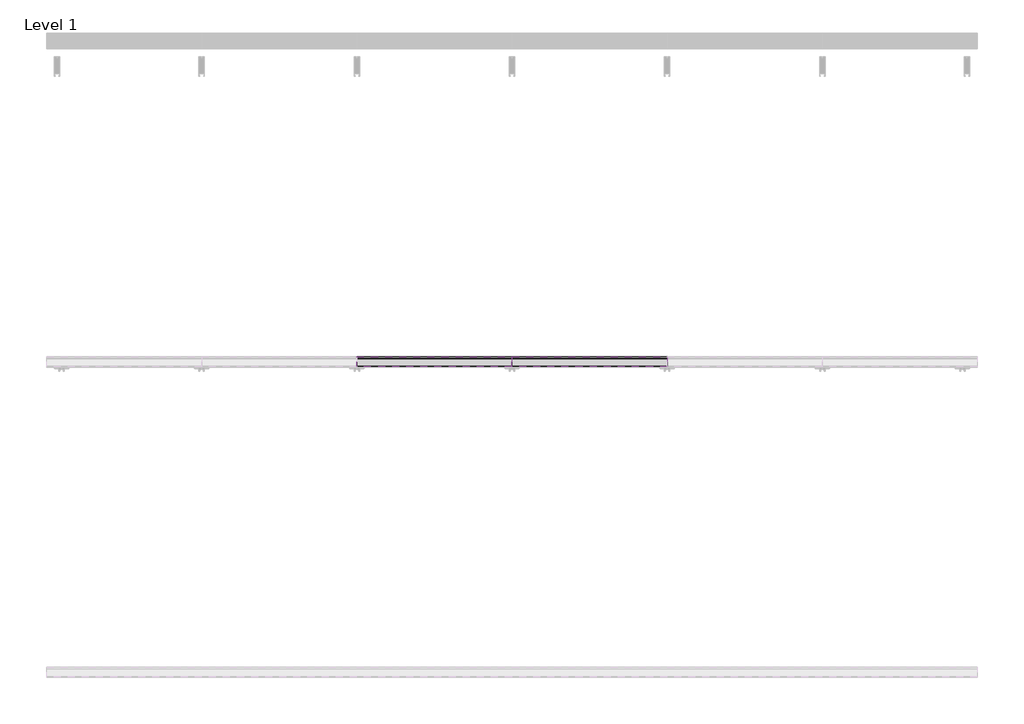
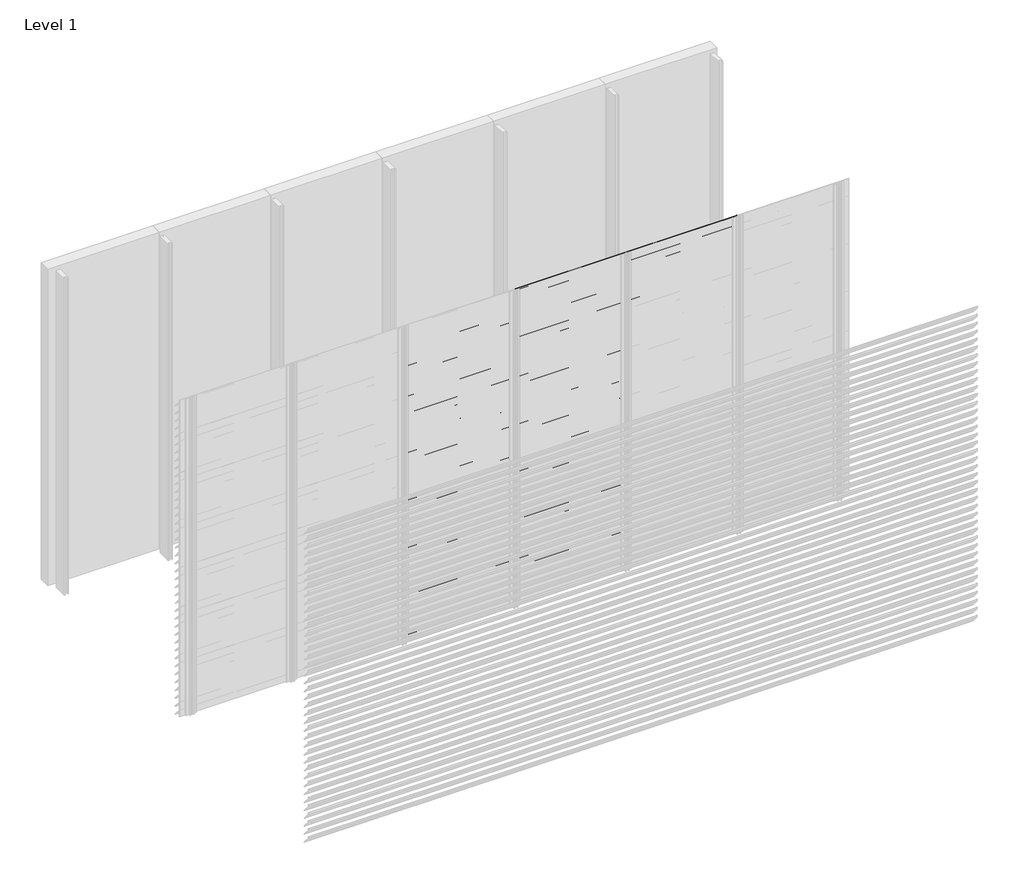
# One storey, part 5 of 35: 86 proxies.
"""IFC4 building model written with IfcOpenShell, lengths in millimetres."""

from ifc_helpers import new_model, si_unit, frame, origin, place, context, project, spatial, polyline, outline, extrude, element, save

model = new_model("IFC4")

# Units and contexts
model_context = context("Model", 3, world=origin())
ifc_project = project(units=[si_unit("LENGTHUNIT", "METRE", prefix="MILLI")], contexts=[model_context])

# Site, building, storey
site = spatial("IfcSite", under=ifc_project)
building = spatial("IfcBuilding", under=site)
storey = spatial("IfcBuildingStorey", under=building, Name="Level 1", Elevation=0.0)

# Proxies
placement = place(None, origin())
element("IfcBuildingElementProxy", 1, Name="Wall Sweeps", at=placement, inside=storey, context=model_context, shape_type="SweptSolid", body=[
    extrude(outline(polyline([(-53996.5, 2925.0), (-53996.5, 2910.5463701), (-53934.5, 2838.9330051), (-53934.5, 2835.4), (-53936.0, 2835.4), (-53936.0, 2838.3738975), (-53998.0, 2909.9872626), (-53998.0, 2925.0), (-53996.5, 2925.0)])), frame((2000.0, 0.0, 0.0), z_axis=(1.0, 0.0, 0.0), x_axis=(0.0, 1.0, 0.0)), (0.0, 0.0, 1.0), 1000.0),
])
element("IfcBuildingElementProxy", 2, Name="Wall Sweeps", at=placement, inside=storey, context=model_context, shape_type="SweptSolid", body=[
    extrude(outline(polyline([(-53996.5, 2850.0), (-53996.5, 2835.5463701), (-53934.5, 2763.9330051), (-53934.5, 2760.4), (-53936.0, 2760.4), (-53936.0, 2763.3738975), (-53998.0, 2834.9872626), (-53998.0, 2850.0), (-53996.5, 2850.0)])), frame((2000.0, 0.0, 0.0), z_axis=(1.0, 0.0, 0.0), x_axis=(0.0, 1.0, 0.0)), (0.0, 0.0, 1.0), 1000.0),
])
element("IfcBuildingElementProxy", 3, Name="Wall Sweeps", at=placement, inside=storey, context=model_context, shape_type="SweptSolid", body=[
    extrude(outline(polyline([(-53996.5, 2775.0), (-53996.5, 2760.5463701), (-53934.5, 2688.9330051), (-53934.5, 2685.4), (-53936.0, 2685.4), (-53936.0, 2688.3738975), (-53998.0, 2759.9872626), (-53998.0, 2775.0), (-53996.5, 2775.0)])), frame((2000.0, 0.0, 0.0), z_axis=(1.0, 0.0, 0.0), x_axis=(0.0, 1.0, 0.0)), (0.0, 0.0, 1.0), 1000.0),
])
element("IfcBuildingElementProxy", 4, Name="Wall Sweeps", at=placement, inside=storey, context=model_context, shape_type="SweptSolid", body=[
    extrude(outline(polyline([(-53996.5, 2700.0), (-53996.5, 2685.5463701), (-53934.5, 2613.9330051), (-53934.5, 2610.4), (-53936.0, 2610.4), (-53936.0, 2613.3738975), (-53998.0, 2684.9872626), (-53998.0, 2700.0), (-53996.5, 2700.0)])), frame((2000.0, 0.0, 0.0), z_axis=(1.0, 0.0, 0.0), x_axis=(0.0, 1.0, 0.0)), (0.0, 0.0, 1.0), 1000.0),
])
element("IfcBuildingElementProxy", 5, Name="Wall Sweeps", at=placement, inside=storey, context=model_context, shape_type="SweptSolid", body=[
    extrude(outline(polyline([(-53996.5, 2625.0), (-53996.5, 2610.5463701), (-53934.5, 2538.9330051), (-53934.5, 2535.4), (-53936.0, 2535.4), (-53936.0, 2538.3738975), (-53998.0, 2609.9872626), (-53998.0, 2625.0), (-53996.5, 2625.0)])), frame((2000.0, 0.0, 0.0), z_axis=(1.0, 0.0, 0.0), x_axis=(0.0, 1.0, 0.0)), (0.0, 0.0, 1.0), 1000.0),
])
element("IfcBuildingElementProxy", 6, Name="Wall Sweeps", at=placement, inside=storey, context=model_context, shape_type="SweptSolid", body=[
    extrude(outline(polyline([(-53996.5, 2550.0), (-53996.5, 2535.5463701), (-53934.5, 2463.9330051), (-53934.5, 2460.4), (-53936.0, 2460.4), (-53936.0, 2463.3738975), (-53998.0, 2534.9872626), (-53998.0, 2550.0), (-53996.5, 2550.0)])), frame((2000.0, 0.0, 0.0), z_axis=(1.0, 0.0, 0.0), x_axis=(0.0, 1.0, 0.0)), (0.0, 0.0, 1.0), 1000.0),
])
element("IfcBuildingElementProxy", 7, Name="Wall Sweeps", at=placement, inside=storey, context=model_context, shape_type="SweptSolid", body=[
    extrude(outline(polyline([(-53996.5, 2475.0), (-53996.5, 2460.5463701), (-53934.5, 2388.9330051), (-53934.5, 2385.4), (-53936.0, 2385.4), (-53936.0, 2388.3738975), (-53998.0, 2459.9872626), (-53998.0, 2475.0), (-53996.5, 2475.0)])), frame((2000.0, 0.0, 0.0), z_axis=(1.0, 0.0, 0.0), x_axis=(0.0, 1.0, 0.0)), (0.0, 0.0, 1.0), 1000.0),
])
element("IfcBuildingElementProxy", 8, Name="Wall Sweeps", at=placement, inside=storey, context=model_context, shape_type="SweptSolid", body=[
    extrude(outline(polyline([(-53996.5, 2400.0), (-53996.5, 2385.5463701), (-53934.5, 2313.9330051), (-53934.5, 2310.4), (-53936.0, 2310.4), (-53936.0, 2313.3738975), (-53998.0, 2384.9872626), (-53998.0, 2400.0), (-53996.5, 2400.0)])), frame((2000.0, 0.0, 0.0), z_axis=(1.0, 0.0, 0.0), x_axis=(0.0, 1.0, 0.0)), (0.0, 0.0, 1.0), 1000.0),
])
element("IfcBuildingElementProxy", 9, Name="Wall Sweeps", at=placement, inside=storey, context=model_context, shape_type="SweptSolid", body=[
    extrude(outline(polyline([(-53996.5, 2325.0), (-53996.5, 2310.5463701), (-53934.5, 2238.9330051), (-53934.5, 2235.4), (-53936.0, 2235.4), (-53936.0, 2238.3738975), (-53998.0, 2309.9872626), (-53998.0, 2325.0), (-53996.5, 2325.0)])), frame((2000.0, 0.0, 0.0), z_axis=(1.0, 0.0, 0.0), x_axis=(0.0, 1.0, 0.0)), (0.0, 0.0, 1.0), 1000.0),
])
element("IfcBuildingElementProxy", 10, Name="Wall Sweeps", at=placement, inside=storey, context=model_context, shape_type="SweptSolid", body=[
    extrude(outline(polyline([(-53996.5, 2250.0), (-53996.5, 2235.5463701), (-53934.5, 2163.9330051), (-53934.5, 2160.4), (-53936.0, 2160.4), (-53936.0, 2163.3738975), (-53998.0, 2234.9872626), (-53998.0, 2250.0), (-53996.5, 2250.0)])), frame((2000.0, 0.0, 0.0), z_axis=(1.0, 0.0, 0.0), x_axis=(0.0, 1.0, 0.0)), (0.0, 0.0, 1.0), 1000.0),
])
element("IfcBuildingElementProxy", 11, Name="Wall Sweeps", at=placement, inside=storey, context=model_context, shape_type="SweptSolid", body=[
    extrude(outline(polyline([(-53996.5, 2175.0), (-53996.5, 2160.5463701), (-53934.5, 2088.9330051), (-53934.5, 2085.4), (-53936.0, 2085.4), (-53936.0, 2088.3738975), (-53998.0, 2159.9872626), (-53998.0, 2175.0), (-53996.5, 2175.0)])), frame((2000.0, 0.0, 0.0), z_axis=(1.0, 0.0, 0.0), x_axis=(0.0, 1.0, 0.0)), (0.0, 0.0, 1.0), 1000.0),
])
element("IfcBuildingElementProxy", 12, Name="Wall Sweeps", at=placement, inside=storey, context=model_context, shape_type="SweptSolid", body=[
    extrude(outline(polyline([(-53996.5, 2100.0), (-53996.5, 2085.5463701), (-53934.5, 2013.9330051), (-53934.5, 2010.4), (-53936.0, 2010.4), (-53936.0, 2013.3738975), (-53998.0, 2084.9872626), (-53998.0, 2100.0), (-53996.5, 2100.0)])), frame((2000.0, 0.0, 0.0), z_axis=(1.0, 0.0, 0.0), x_axis=(0.0, 1.0, 0.0)), (0.0, 0.0, 1.0), 1000.0),
])
element("IfcBuildingElementProxy", 13, Name="Wall Sweeps", at=placement, inside=storey, context=model_context, shape_type="SweptSolid", body=[
    extrude(outline(polyline([(-53996.5, 2025.0), (-53996.5, 2010.5463701), (-53934.5, 1938.9330051), (-53934.5, 1935.4), (-53936.0, 1935.4), (-53936.0, 1938.3738975), (-53998.0, 2009.9872626), (-53998.0, 2025.0), (-53996.5, 2025.0)])), frame((2000.0, 0.0, 0.0), z_axis=(1.0, 0.0, 0.0), x_axis=(0.0, 1.0, 0.0)), (0.0, 0.0, 1.0), 1000.0),
])
element("IfcBuildingElementProxy", 14, Name="Wall Sweeps", at=placement, inside=storey, context=model_context, shape_type="SweptSolid", body=[
    extrude(outline(polyline([(-53996.5, 1950.0), (-53996.5, 1935.5463701), (-53934.5, 1863.9330051), (-53934.5, 1860.4), (-53936.0, 1860.4), (-53936.0, 1863.3738975), (-53998.0, 1934.9872626), (-53998.0, 1950.0), (-53996.5, 1950.0)])), frame((2000.0, 0.0, 0.0), z_axis=(1.0, 0.0, 0.0), x_axis=(0.0, 1.0, 0.0)), (0.0, 0.0, 1.0), 1000.0),
])
element("IfcBuildingElementProxy", 15, Name="Wall Sweeps", at=placement, inside=storey, context=model_context, shape_type="SweptSolid", body=[
    extrude(outline(polyline([(-53996.5, 1875.0), (-53996.5, 1860.5463701), (-53934.5, 1788.9330051), (-53934.5, 1785.4), (-53936.0, 1785.4), (-53936.0, 1788.3738975), (-53998.0, 1859.9872626), (-53998.0, 1875.0), (-53996.5, 1875.0)])), frame((2000.0, 0.0, 0.0), z_axis=(1.0, 0.0, 0.0), x_axis=(0.0, 1.0, 0.0)), (0.0, 0.0, 1.0), 1000.0),
])
element("IfcBuildingElementProxy", 16, Name="Wall Sweeps", at=placement, inside=storey, context=model_context, shape_type="SweptSolid", body=[
    extrude(outline(polyline([(-53996.5, 1800.0), (-53996.5, 1785.5463701), (-53934.5, 1713.9330051), (-53934.5, 1710.4), (-53936.0, 1710.4), (-53936.0, 1713.3738975), (-53998.0, 1784.9872626), (-53998.0, 1800.0), (-53996.5, 1800.0)])), frame((2000.0, 0.0, 0.0), z_axis=(1.0, 0.0, 0.0), x_axis=(0.0, 1.0, 0.0)), (0.0, 0.0, 1.0), 1000.0),
])
element("IfcBuildingElementProxy", 17, Name="Wall Sweeps", at=placement, inside=storey, context=model_context, shape_type="SweptSolid", body=[
    extrude(outline(polyline([(-53996.5, 1725.0), (-53996.5, 1710.5463701), (-53934.5, 1638.9330051), (-53934.5, 1635.4), (-53936.0, 1635.4), (-53936.0, 1638.3738975), (-53998.0, 1709.9872626), (-53998.0, 1725.0), (-53996.5, 1725.0)])), frame((2000.0, 0.0, 0.0), z_axis=(1.0, 0.0, 0.0), x_axis=(0.0, 1.0, 0.0)), (0.0, 0.0, 1.0), 1000.0),
])
element("IfcBuildingElementProxy", 18, Name="Wall Sweeps", at=placement, inside=storey, context=model_context, shape_type="SweptSolid", body=[
    extrude(outline(polyline([(-53996.5, 1650.0), (-53996.5, 1635.5463701), (-53934.5, 1563.9330051), (-53934.5, 1560.4), (-53936.0, 1560.4), (-53936.0, 1563.3738975), (-53998.0, 1634.9872626), (-53998.0, 1650.0), (-53996.5, 1650.0)])), frame((2000.0, 0.0, 0.0), z_axis=(1.0, 0.0, 0.0), x_axis=(0.0, 1.0, 0.0)), (0.0, 0.0, 1.0), 1000.0),
])
element("IfcBuildingElementProxy", 19, Name="Wall Sweeps", at=placement, inside=storey, context=model_context, shape_type="SweptSolid", body=[
    extrude(outline(polyline([(-53996.5, 1575.0), (-53996.5, 1560.5463701), (-53934.5, 1488.9330051), (-53934.5, 1485.4), (-53936.0, 1485.4), (-53936.0, 1488.3738975), (-53998.0, 1559.9872626), (-53998.0, 1575.0), (-53996.5, 1575.0)])), frame((2000.0, 0.0, 0.0), z_axis=(1.0, 0.0, 0.0), x_axis=(0.0, 1.0, 0.0)), (0.0, 0.0, 1.0), 1000.0),
])
element("IfcBuildingElementProxy", 20, Name="Wall Sweeps", at=placement, inside=storey, context=model_context, shape_type="SweptSolid", body=[
    extrude(outline(polyline([(-53996.5, 1500.0), (-53996.5, 1485.5463701), (-53934.5, 1413.9330051), (-53934.5, 1410.4), (-53936.0, 1410.4), (-53936.0, 1413.3738975), (-53998.0, 1484.9872626), (-53998.0, 1500.0), (-53996.5, 1500.0)])), frame((2000.0, 0.0, 0.0), z_axis=(1.0, 0.0, 0.0), x_axis=(0.0, 1.0, 0.0)), (0.0, 0.0, 1.0), 1000.0),
])
element("IfcBuildingElementProxy", 21, Name="Wall Sweeps", at=placement, inside=storey, context=model_context, shape_type="SweptSolid", body=[
    extrude(outline(polyline([(-53996.5, 1425.0), (-53996.5, 1410.5463701), (-53934.5, 1338.9330051), (-53934.5, 1335.4), (-53936.0, 1335.4), (-53936.0, 1338.3738975), (-53998.0, 1409.9872626), (-53998.0, 1425.0), (-53996.5, 1425.0)])), frame((2000.0, 0.0, 0.0), z_axis=(1.0, 0.0, 0.0), x_axis=(0.0, 1.0, 0.0)), (0.0, 0.0, 1.0), 1000.0),
])
element("IfcBuildingElementProxy", 22, Name="Wall Sweeps", at=placement, inside=storey, context=model_context, shape_type="SweptSolid", body=[
    extrude(outline(polyline([(-53996.5, 1350.0), (-53996.5, 1335.5463701), (-53934.5, 1263.9330051), (-53934.5, 1260.4), (-53936.0, 1260.4), (-53936.0, 1263.3738975), (-53998.0, 1334.9872626), (-53998.0, 1350.0), (-53996.5, 1350.0)])), frame((2000.0, 0.0, 0.0), z_axis=(1.0, 0.0, 0.0), x_axis=(0.0, 1.0, 0.0)), (0.0, 0.0, 1.0), 1000.0),
])
element("IfcBuildingElementProxy", 23, Name="Wall Sweeps", at=placement, inside=storey, context=model_context, shape_type="SweptSolid", body=[
    extrude(outline(polyline([(-53996.5, 1275.0), (-53996.5, 1260.5463701), (-53934.5, 1188.9330051), (-53934.5, 1185.4), (-53936.0, 1185.4), (-53936.0, 1188.3738975), (-53998.0, 1259.9872626), (-53998.0, 1275.0), (-53996.5, 1275.0)])), frame((2000.0, 0.0, 0.0), z_axis=(1.0, 0.0, 0.0), x_axis=(0.0, 1.0, 0.0)), (0.0, 0.0, 1.0), 1000.0),
])
element("IfcBuildingElementProxy", 24, Name="Wall Sweeps", at=placement, inside=storey, context=model_context, shape_type="SweptSolid", body=[
    extrude(outline(polyline([(-53996.5, 1200.0), (-53996.5, 1185.5463701), (-53934.5, 1113.9330051), (-53934.5, 1110.4), (-53936.0, 1110.4), (-53936.0, 1113.3738975), (-53998.0, 1184.9872626), (-53998.0, 1200.0), (-53996.5, 1200.0)])), frame((2000.0, 0.0, 0.0), z_axis=(1.0, 0.0, 0.0), x_axis=(0.0, 1.0, 0.0)), (0.0, 0.0, 1.0), 1000.0),
])
element("IfcBuildingElementProxy", 25, Name="Wall Sweeps", at=placement, inside=storey, context=model_context, shape_type="SweptSolid", body=[
    extrude(outline(polyline([(-53996.5, 1125.0), (-53996.5, 1110.5463701), (-53934.5, 1038.9330051), (-53934.5, 1035.4), (-53936.0, 1035.4), (-53936.0, 1038.3738975), (-53998.0, 1109.9872626), (-53998.0, 1125.0), (-53996.5, 1125.0)])), frame((2000.0, 0.0, 0.0), z_axis=(1.0, 0.0, 0.0), x_axis=(0.0, 1.0, 0.0)), (0.0, 0.0, 1.0), 1000.0),
])
element("IfcBuildingElementProxy", 26, Name="Wall Sweeps", at=placement, inside=storey, context=model_context, shape_type="SweptSolid", body=[
    extrude(outline(polyline([(-53996.5, 1050.0), (-53996.5, 1035.5463701), (-53934.5, 963.9330051), (-53934.5, 960.4), (-53936.0, 960.4), (-53936.0, 963.3738975), (-53998.0, 1034.9872626), (-53998.0, 1050.0), (-53996.5, 1050.0)])), frame((2000.0, 0.0, 0.0), z_axis=(1.0, 0.0, 0.0), x_axis=(0.0, 1.0, 0.0)), (0.0, 0.0, 1.0), 1000.0),
])
element("IfcBuildingElementProxy", 27, Name="Wall Sweeps", at=placement, inside=storey, context=model_context, shape_type="SweptSolid", body=[
    extrude(outline(polyline([(-53996.5, 975.0), (-53996.5, 960.5463701), (-53934.5, 888.9330051), (-53934.5, 885.4), (-53936.0, 885.4), (-53936.0, 888.3738975), (-53998.0, 959.9872626), (-53998.0, 975.0), (-53996.5, 975.0)])), frame((2000.0, 0.0, 0.0), z_axis=(1.0, 0.0, 0.0), x_axis=(0.0, 1.0, 0.0)), (0.0, 0.0, 1.0), 1000.0),
])
element("IfcBuildingElementProxy", 28, Name="Wall Sweeps", at=placement, inside=storey, context=model_context, shape_type="SweptSolid", body=[
    extrude(outline(polyline([(-53996.5, 900.0), (-53996.5, 885.5463701), (-53934.5, 813.9330051), (-53934.5, 810.4), (-53936.0, 810.4), (-53936.0, 813.3738975), (-53998.0, 884.9872626), (-53998.0, 900.0), (-53996.5, 900.0)])), frame((2000.0, 0.0, 0.0), z_axis=(1.0, 0.0, 0.0), x_axis=(0.0, 1.0, 0.0)), (0.0, 0.0, 1.0), 1000.0),
])
element("IfcBuildingElementProxy", 29, Name="Wall Sweeps", at=placement, inside=storey, context=model_context, shape_type="SweptSolid", body=[
    extrude(outline(polyline([(-53996.5, 825.0), (-53996.5, 810.5463701), (-53934.5, 738.9330051), (-53934.5, 735.4), (-53936.0, 735.4), (-53936.0, 738.3738975), (-53998.0, 809.9872626), (-53998.0, 825.0), (-53996.5, 825.0)])), frame((2000.0, 0.0, 0.0), z_axis=(1.0, 0.0, 0.0), x_axis=(0.0, 1.0, 0.0)), (0.0, 0.0, 1.0), 1000.0),
])
element("IfcBuildingElementProxy", 30, Name="Wall Sweeps", at=placement, inside=storey, context=model_context, shape_type="SweptSolid", body=[
    extrude(outline(polyline([(-53996.5, 750.0), (-53996.5, 735.5463701), (-53934.5, 663.9330051), (-53934.5, 660.4), (-53936.0, 660.4), (-53936.0, 663.3738975), (-53998.0, 734.9872626), (-53998.0, 750.0), (-53996.5, 750.0)])), frame((2000.0, 0.0, 0.0), z_axis=(1.0, 0.0, 0.0), x_axis=(0.0, 1.0, 0.0)), (0.0, 0.0, 1.0), 1000.0),
])
element("IfcBuildingElementProxy", 31, Name="Wall Sweeps", at=placement, inside=storey, context=model_context, shape_type="SweptSolid", body=[
    extrude(outline(polyline([(-53996.5, 675.0), (-53996.5, 660.5463701), (-53934.5, 588.9330051), (-53934.5, 585.4), (-53936.0, 585.4), (-53936.0, 588.3738975), (-53998.0, 659.9872626), (-53998.0, 675.0), (-53996.5, 675.0)])), frame((2000.0, 0.0, 0.0), z_axis=(1.0, 0.0, 0.0), x_axis=(0.0, 1.0, 0.0)), (0.0, 0.0, 1.0), 1000.0),
])
element("IfcBuildingElementProxy", 32, Name="Wall Sweeps", at=placement, inside=storey, context=model_context, shape_type="SweptSolid", body=[
    extrude(outline(polyline([(-53996.5, 600.0), (-53996.5, 585.5463701), (-53934.5, 513.9330051), (-53934.5, 510.4), (-53936.0, 510.4), (-53936.0, 513.3738975), (-53998.0, 584.9872626), (-53998.0, 600.0), (-53996.5, 600.0)])), frame((2000.0, 0.0, 0.0), z_axis=(1.0, 0.0, 0.0), x_axis=(0.0, 1.0, 0.0)), (0.0, 0.0, 1.0), 1000.0),
])
element("IfcBuildingElementProxy", 33, Name="Wall Sweeps", at=placement, inside=storey, context=model_context, shape_type="SweptSolid", body=[
    extrude(outline(polyline([(-53996.5, 525.0), (-53996.5, 510.5463701), (-53934.5, 438.9330051), (-53934.5, 435.4), (-53936.0, 435.4), (-53936.0, 438.3738975), (-53998.0, 509.9872626), (-53998.0, 525.0), (-53996.5, 525.0)])), frame((2000.0, 0.0, 0.0), z_axis=(1.0, 0.0, 0.0), x_axis=(0.0, 1.0, 0.0)), (0.0, 0.0, 1.0), 1000.0),
])
element("IfcBuildingElementProxy", 34, Name="Wall Sweeps", at=placement, inside=storey, context=model_context, shape_type="SweptSolid", body=[
    extrude(outline(polyline([(-53996.5, 450.0), (-53996.5, 435.5463701), (-53934.5, 363.9330051), (-53934.5, 360.4), (-53936.0, 360.4), (-53936.0, 363.3738975), (-53998.0, 434.9872626), (-53998.0, 450.0), (-53996.5, 450.0)])), frame((2000.0, 0.0, 0.0), z_axis=(1.0, 0.0, 0.0), x_axis=(0.0, 1.0, 0.0)), (0.0, 0.0, 1.0), 1000.0),
])
element("IfcBuildingElementProxy", 35, Name="Wall Sweeps", at=placement, inside=storey, context=model_context, shape_type="SweptSolid", body=[
    extrude(outline(polyline([(-53996.5, 375.0), (-53996.5, 360.5463701), (-53934.5, 288.9330051), (-53934.5, 285.4), (-53936.0, 285.4), (-53936.0, 288.3738975), (-53998.0, 359.9872626), (-53998.0, 375.0), (-53996.5, 375.0)])), frame((2000.0, 0.0, 0.0), z_axis=(1.0, 0.0, 0.0), x_axis=(0.0, 1.0, 0.0)), (0.0, 0.0, 1.0), 1000.0),
])
element("IfcBuildingElementProxy", 36, Name="Wall Sweeps", at=placement, inside=storey, context=model_context, shape_type="SweptSolid", body=[
    extrude(outline(polyline([(-53996.5, 300.0), (-53996.5, 285.5463701), (-53934.5, 213.9330051), (-53934.5, 210.4), (-53936.0, 210.4), (-53936.0, 213.3738975), (-53998.0, 284.9872626), (-53998.0, 300.0), (-53996.5, 300.0)])), frame((2000.0, 0.0, 0.0), z_axis=(1.0, 0.0, 0.0), x_axis=(0.0, 1.0, 0.0)), (0.0, 0.0, 1.0), 1000.0),
])
element("IfcBuildingElementProxy", 37, Name="Wall Sweeps", at=placement, inside=storey, context=model_context, shape_type="SweptSolid", body=[
    extrude(outline(polyline([(-53996.5, 225.0), (-53996.5, 210.5463701), (-53934.5, 138.9330051), (-53934.5, 135.4), (-53936.0, 135.4), (-53936.0, 138.3738975), (-53998.0, 209.9872626), (-53998.0, 225.0), (-53996.5, 225.0)])), frame((2000.0, 0.0, 0.0), z_axis=(1.0, 0.0, 0.0), x_axis=(0.0, 1.0, 0.0)), (0.0, 0.0, 1.0), 1000.0),
])
element("IfcBuildingElementProxy", 38, Name="Wall Sweeps", at=placement, inside=storey, context=model_context, shape_type="SweptSolid", body=[
    extrude(outline(polyline([(-53996.5, 150.0), (-53996.5, 135.5463701), (-53934.5, 63.9330051), (-53934.5, 60.4), (-53936.0, 60.4), (-53936.0, 63.3738975), (-53998.0, 134.9872626), (-53998.0, 150.0), (-53996.5, 150.0)])), frame((2000.0, 0.0, 0.0), z_axis=(1.0, 0.0, 0.0), x_axis=(0.0, 1.0, 0.0)), (0.0, 0.0, 1.0), 1000.0),
])
element("IfcBuildingElementProxy", 39, Name="Wall Sweeps", at=placement, inside=storey, context=model_context, shape_type="SweptSolid", body=[
    extrude(outline(polyline([(-53996.5, 75.0), (-53996.5, 60.5463701), (-53934.5, -11.0669949), (-53934.5, -14.6), (-53936.0, -14.6), (-53936.0, -11.6261025), (-53998.0, 59.9872626), (-53998.0, 75.0), (-53996.5, 75.0)])), frame((2000.0, 0.0, 0.0), z_axis=(1.0, 0.0, 0.0), x_axis=(0.0, 1.0, 0.0)), (0.0, 0.0, 1.0), 1000.0),
])
element("IfcBuildingElementProxy", 40, Name="Wall Sweeps", at=placement, inside=storey, context=model_context, shape_type="SweptSolid", body=[
    extrude(outline(polyline([(-53996.5, 3000.0), (-53996.5, 2985.5463701), (-53934.5, 2913.9330051), (-53934.5, 2910.4), (-53936.0, 2910.4), (-53936.0, 2913.3738975), (-53998.0, 2984.9872626), (-53998.0, 3000.0), (-53996.5, 3000.0)])), frame((3000.0, 0.0, 0.0), z_axis=(1.0, 0.0, 0.0), x_axis=(0.0, 1.0, 0.0)), (0.0, 0.0, 1.0), 1000.0),
])
element("IfcBuildingElementProxy", 41, Name="Wall Sweeps", at=placement, inside=storey, context=model_context, shape_type="SweptSolid", body=[
    extrude(outline(polyline([(-53996.5, 2925.0), (-53996.5, 2910.5463701), (-53934.5, 2838.9330051), (-53934.5, 2835.4), (-53936.0, 2835.4), (-53936.0, 2838.3738975), (-53998.0, 2909.9872626), (-53998.0, 2925.0), (-53996.5, 2925.0)])), frame((3000.0, 0.0, 0.0), z_axis=(1.0, 0.0, 0.0), x_axis=(0.0, 1.0, 0.0)), (0.0, 0.0, 1.0), 1000.0),
])
element("IfcBuildingElementProxy", 42, Name="Wall Sweeps", at=placement, inside=storey, context=model_context, shape_type="SweptSolid", body=[
    extrude(outline(polyline([(-53996.5, 2850.0), (-53996.5, 2835.5463701), (-53934.5, 2763.9330051), (-53934.5, 2760.4), (-53936.0, 2760.4), (-53936.0, 2763.3738975), (-53998.0, 2834.9872626), (-53998.0, 2850.0), (-53996.5, 2850.0)])), frame((3000.0, 0.0, 0.0), z_axis=(1.0, 0.0, 0.0), x_axis=(0.0, 1.0, 0.0)), (0.0, 0.0, 1.0), 1000.0),
])
element("IfcBuildingElementProxy", 43, Name="Wall Sweeps", at=placement, inside=storey, context=model_context, shape_type="SweptSolid", body=[
    extrude(outline(polyline([(-53996.5, 2775.0), (-53996.5, 2760.5463701), (-53934.5, 2688.9330051), (-53934.5, 2685.4), (-53936.0, 2685.4), (-53936.0, 2688.3738975), (-53998.0, 2759.9872626), (-53998.0, 2775.0), (-53996.5, 2775.0)])), frame((3000.0, 0.0, 0.0), z_axis=(1.0, 0.0, 0.0), x_axis=(0.0, 1.0, 0.0)), (0.0, 0.0, 1.0), 1000.0),
])
element("IfcBuildingElementProxy", 44, Name="Wall Sweeps", at=placement, inside=storey, context=model_context, shape_type="SweptSolid", body=[
    extrude(outline(polyline([(-53996.5, 2700.0), (-53996.5, 2685.5463701), (-53934.5, 2613.9330051), (-53934.5, 2610.4), (-53936.0, 2610.4), (-53936.0, 2613.3738975), (-53998.0, 2684.9872626), (-53998.0, 2700.0), (-53996.5, 2700.0)])), frame((3000.0, 0.0, 0.0), z_axis=(1.0, 0.0, 0.0), x_axis=(0.0, 1.0, 0.0)), (0.0, 0.0, 1.0), 1000.0),
])
element("IfcBuildingElementProxy", 45, Name="Wall Sweeps", at=placement, inside=storey, context=model_context, shape_type="SweptSolid", body=[
    extrude(outline(polyline([(-53996.5, 2625.0), (-53996.5, 2610.5463701), (-53934.5, 2538.9330051), (-53934.5, 2535.4), (-53936.0, 2535.4), (-53936.0, 2538.3738975), (-53998.0, 2609.9872626), (-53998.0, 2625.0), (-53996.5, 2625.0)])), frame((3000.0, 0.0, 0.0), z_axis=(1.0, 0.0, 0.0), x_axis=(0.0, 1.0, 0.0)), (0.0, 0.0, 1.0), 1000.0),
])
element("IfcBuildingElementProxy", 46, Name="Wall Sweeps", at=placement, inside=storey, context=model_context, shape_type="SweptSolid", body=[
    extrude(outline(polyline([(-53996.5, 2550.0), (-53996.5, 2535.5463701), (-53934.5, 2463.9330051), (-53934.5, 2460.4), (-53936.0, 2460.4), (-53936.0, 2463.3738975), (-53998.0, 2534.9872626), (-53998.0, 2550.0), (-53996.5, 2550.0)])), frame((3000.0, 0.0, 0.0), z_axis=(1.0, 0.0, 0.0), x_axis=(0.0, 1.0, 0.0)), (0.0, 0.0, 1.0), 1000.0),
])
element("IfcBuildingElementProxy", 47, Name="Wall Sweeps", at=placement, inside=storey, context=model_context, shape_type="SweptSolid", body=[
    extrude(outline(polyline([(-53996.5, 2475.0), (-53996.5, 2460.5463701), (-53934.5, 2388.9330051), (-53934.5, 2385.4), (-53936.0, 2385.4), (-53936.0, 2388.3738975), (-53998.0, 2459.9872626), (-53998.0, 2475.0), (-53996.5, 2475.0)])), frame((3000.0, 0.0, 0.0), z_axis=(1.0, 0.0, 0.0), x_axis=(0.0, 1.0, 0.0)), (0.0, 0.0, 1.0), 1000.0),
])
element("IfcBuildingElementProxy", 48, Name="Wall Sweeps", at=placement, inside=storey, context=model_context, shape_type="SweptSolid", body=[
    extrude(outline(polyline([(-53996.5, 2400.0), (-53996.5, 2385.5463701), (-53934.5, 2313.9330051), (-53934.5, 2310.4), (-53936.0, 2310.4), (-53936.0, 2313.3738975), (-53998.0, 2384.9872626), (-53998.0, 2400.0), (-53996.5, 2400.0)])), frame((3000.0, 0.0, 0.0), z_axis=(1.0, 0.0, 0.0), x_axis=(0.0, 1.0, 0.0)), (0.0, 0.0, 1.0), 1000.0),
])
element("IfcBuildingElementProxy", 49, Name="Wall Sweeps", at=placement, inside=storey, context=model_context, shape_type="SweptSolid", body=[
    extrude(outline(polyline([(-53996.5, 2325.0), (-53996.5, 2310.5463701), (-53934.5, 2238.9330051), (-53934.5, 2235.4), (-53936.0, 2235.4), (-53936.0, 2238.3738975), (-53998.0, 2309.9872626), (-53998.0, 2325.0), (-53996.5, 2325.0)])), frame((3000.0, 0.0, 0.0), z_axis=(1.0, 0.0, 0.0), x_axis=(0.0, 1.0, 0.0)), (0.0, 0.0, 1.0), 1000.0),
])
element("IfcBuildingElementProxy", 50, Name="Wall Sweeps", at=placement, inside=storey, context=model_context, shape_type="SweptSolid", body=[
    extrude(outline(polyline([(-53996.5, 2250.0), (-53996.5, 2235.5463701), (-53934.5, 2163.9330051), (-53934.5, 2160.4), (-53936.0, 2160.4), (-53936.0, 2163.3738975), (-53998.0, 2234.9872626), (-53998.0, 2250.0), (-53996.5, 2250.0)])), frame((3000.0, 0.0, 0.0), z_axis=(1.0, 0.0, 0.0), x_axis=(0.0, 1.0, 0.0)), (0.0, 0.0, 1.0), 1000.0),
])
element("IfcBuildingElementProxy", 51, Name="Wall Sweeps", at=placement, inside=storey, context=model_context, shape_type="SweptSolid", body=[
    extrude(outline(polyline([(-53996.5, 2175.0), (-53996.5, 2160.5463701), (-53934.5, 2088.9330051), (-53934.5, 2085.4), (-53936.0, 2085.4), (-53936.0, 2088.3738975), (-53998.0, 2159.9872626), (-53998.0, 2175.0), (-53996.5, 2175.0)])), frame((3000.0, 0.0, 0.0), z_axis=(1.0, 0.0, 0.0), x_axis=(0.0, 1.0, 0.0)), (0.0, 0.0, 1.0), 1000.0),
])
element("IfcBuildingElementProxy", 52, Name="Wall Sweeps", at=placement, inside=storey, context=model_context, shape_type="SweptSolid", body=[
    extrude(outline(polyline([(-53996.5, 2100.0), (-53996.5, 2085.5463701), (-53934.5, 2013.9330051), (-53934.5, 2010.4), (-53936.0, 2010.4), (-53936.0, 2013.3738975), (-53998.0, 2084.9872626), (-53998.0, 2100.0), (-53996.5, 2100.0)])), frame((3000.0, 0.0, 0.0), z_axis=(1.0, 0.0, 0.0), x_axis=(0.0, 1.0, 0.0)), (0.0, 0.0, 1.0), 1000.0),
])
element("IfcBuildingElementProxy", 53, Name="Wall Sweeps", at=placement, inside=storey, context=model_context, shape_type="SweptSolid", body=[
    extrude(outline(polyline([(-53996.5, 2025.0), (-53996.5, 2010.5463701), (-53934.5, 1938.9330051), (-53934.5, 1935.4), (-53936.0, 1935.4), (-53936.0, 1938.3738975), (-53998.0, 2009.9872626), (-53998.0, 2025.0), (-53996.5, 2025.0)])), frame((3000.0, 0.0, 0.0), z_axis=(1.0, 0.0, 0.0), x_axis=(0.0, 1.0, 0.0)), (0.0, 0.0, 1.0), 1000.0),
])
element("IfcBuildingElementProxy", 54, Name="Wall Sweeps", at=placement, inside=storey, context=model_context, shape_type="SweptSolid", body=[
    extrude(outline(polyline([(-53996.5, 1950.0), (-53996.5, 1935.5463701), (-53934.5, 1863.9330051), (-53934.5, 1860.4), (-53936.0, 1860.4), (-53936.0, 1863.3738975), (-53998.0, 1934.9872626), (-53998.0, 1950.0), (-53996.5, 1950.0)])), frame((3000.0, 0.0, 0.0), z_axis=(1.0, 0.0, 0.0), x_axis=(0.0, 1.0, 0.0)), (0.0, 0.0, 1.0), 1000.0),
])
element("IfcBuildingElementProxy", 55, Name="Wall Sweeps", at=placement, inside=storey, context=model_context, shape_type="SweptSolid", body=[
    extrude(outline(polyline([(-53996.5, 1875.0), (-53996.5, 1860.5463701), (-53934.5, 1788.9330051), (-53934.5, 1785.4), (-53936.0, 1785.4), (-53936.0, 1788.3738975), (-53998.0, 1859.9872626), (-53998.0, 1875.0), (-53996.5, 1875.0)])), frame((3000.0, 0.0, 0.0), z_axis=(1.0, 0.0, 0.0), x_axis=(0.0, 1.0, 0.0)), (0.0, 0.0, 1.0), 1000.0),
])
element("IfcBuildingElementProxy", 56, Name="Wall Sweeps", at=placement, inside=storey, context=model_context, shape_type="SweptSolid", body=[
    extrude(outline(polyline([(-53996.5, 1800.0), (-53996.5, 1785.5463701), (-53934.5, 1713.9330051), (-53934.5, 1710.4), (-53936.0, 1710.4), (-53936.0, 1713.3738975), (-53998.0, 1784.9872626), (-53998.0, 1800.0), (-53996.5, 1800.0)])), frame((3000.0, 0.0, 0.0), z_axis=(1.0, 0.0, 0.0), x_axis=(0.0, 1.0, 0.0)), (0.0, 0.0, 1.0), 1000.0),
])
element("IfcBuildingElementProxy", 57, Name="Wall Sweeps", at=placement, inside=storey, context=model_context, shape_type="SweptSolid", body=[
    extrude(outline(polyline([(-53996.5, 1725.0), (-53996.5, 1710.5463701), (-53934.5, 1638.9330051), (-53934.5, 1635.4), (-53936.0, 1635.4), (-53936.0, 1638.3738975), (-53998.0, 1709.9872626), (-53998.0, 1725.0), (-53996.5, 1725.0)])), frame((3000.0, 0.0, 0.0), z_axis=(1.0, 0.0, 0.0), x_axis=(0.0, 1.0, 0.0)), (0.0, 0.0, 1.0), 1000.0),
])
element("IfcBuildingElementProxy", 58, Name="Wall Sweeps", at=placement, inside=storey, context=model_context, shape_type="SweptSolid", body=[
    extrude(outline(polyline([(-53996.5, 1650.0), (-53996.5, 1635.5463701), (-53934.5, 1563.9330051), (-53934.5, 1560.4), (-53936.0, 1560.4), (-53936.0, 1563.3738975), (-53998.0, 1634.9872626), (-53998.0, 1650.0), (-53996.5, 1650.0)])), frame((3000.0, 0.0, 0.0), z_axis=(1.0, 0.0, 0.0), x_axis=(0.0, 1.0, 0.0)), (0.0, 0.0, 1.0), 1000.0),
])
element("IfcBuildingElementProxy", 59, Name="Wall Sweeps", at=placement, inside=storey, context=model_context, shape_type="SweptSolid", body=[
    extrude(outline(polyline([(-53996.5, 1575.0), (-53996.5, 1560.5463701), (-53934.5, 1488.9330051), (-53934.5, 1485.4), (-53936.0, 1485.4), (-53936.0, 1488.3738975), (-53998.0, 1559.9872626), (-53998.0, 1575.0), (-53996.5, 1575.0)])), frame((3000.0, 0.0, 0.0), z_axis=(1.0, 0.0, 0.0), x_axis=(0.0, 1.0, 0.0)), (0.0, 0.0, 1.0), 1000.0),
])
element("IfcBuildingElementProxy", 60, Name="Wall Sweeps", at=placement, inside=storey, context=model_context, shape_type="SweptSolid", body=[
    extrude(outline(polyline([(-53996.5, 1500.0), (-53996.5, 1485.5463701), (-53934.5, 1413.9330051), (-53934.5, 1410.4), (-53936.0, 1410.4), (-53936.0, 1413.3738975), (-53998.0, 1484.9872626), (-53998.0, 1500.0), (-53996.5, 1500.0)])), frame((3000.0, 0.0, 0.0), z_axis=(1.0, 0.0, 0.0), x_axis=(0.0, 1.0, 0.0)), (0.0, 0.0, 1.0), 1000.0),
])
element("IfcBuildingElementProxy", 61, Name="Wall Sweeps", at=placement, inside=storey, context=model_context, shape_type="SweptSolid", body=[
    extrude(outline(polyline([(-53996.5, 1425.0), (-53996.5, 1410.5463701), (-53934.5, 1338.9330051), (-53934.5, 1335.4), (-53936.0, 1335.4), (-53936.0, 1338.3738975), (-53998.0, 1409.9872626), (-53998.0, 1425.0), (-53996.5, 1425.0)])), frame((3000.0, 0.0, 0.0), z_axis=(1.0, 0.0, 0.0), x_axis=(0.0, 1.0, 0.0)), (0.0, 0.0, 1.0), 1000.0),
])
element("IfcBuildingElementProxy", 62, Name="Wall Sweeps", at=placement, inside=storey, context=model_context, shape_type="SweptSolid", body=[
    extrude(outline(polyline([(-53996.5, 1350.0), (-53996.5, 1335.5463701), (-53934.5, 1263.9330051), (-53934.5, 1260.4), (-53936.0, 1260.4), (-53936.0, 1263.3738975), (-53998.0, 1334.9872626), (-53998.0, 1350.0), (-53996.5, 1350.0)])), frame((3000.0, 0.0, 0.0), z_axis=(1.0, 0.0, 0.0), x_axis=(0.0, 1.0, 0.0)), (0.0, 0.0, 1.0), 1000.0),
])
element("IfcBuildingElementProxy", 63, Name="Wall Sweeps", at=placement, inside=storey, context=model_context, shape_type="SweptSolid", body=[
    extrude(outline(polyline([(-53996.5, 1275.0), (-53996.5, 1260.5463701), (-53934.5, 1188.9330051), (-53934.5, 1185.4), (-53936.0, 1185.4), (-53936.0, 1188.3738975), (-53998.0, 1259.9872626), (-53998.0, 1275.0), (-53996.5, 1275.0)])), frame((3000.0, 0.0, 0.0), z_axis=(1.0, 0.0, 0.0), x_axis=(0.0, 1.0, 0.0)), (0.0, 0.0, 1.0), 1000.0),
])
element("IfcBuildingElementProxy", 64, Name="Wall Sweeps", at=placement, inside=storey, context=model_context, shape_type="SweptSolid", body=[
    extrude(outline(polyline([(-53996.5, 1200.0), (-53996.5, 1185.5463701), (-53934.5, 1113.9330051), (-53934.5, 1110.4), (-53936.0, 1110.4), (-53936.0, 1113.3738975), (-53998.0, 1184.9872626), (-53998.0, 1200.0), (-53996.5, 1200.0)])), frame((3000.0, 0.0, 0.0), z_axis=(1.0, 0.0, 0.0), x_axis=(0.0, 1.0, 0.0)), (0.0, 0.0, 1.0), 1000.0),
])
element("IfcBuildingElementProxy", 65, Name="Wall Sweeps", at=placement, inside=storey, context=model_context, shape_type="SweptSolid", body=[
    extrude(outline(polyline([(-53996.5, 1125.0), (-53996.5, 1110.5463701), (-53934.5, 1038.9330051), (-53934.5, 1035.4), (-53936.0, 1035.4), (-53936.0, 1038.3738975), (-53998.0, 1109.9872626), (-53998.0, 1125.0), (-53996.5, 1125.0)])), frame((3000.0, 0.0, 0.0), z_axis=(1.0, 0.0, 0.0), x_axis=(0.0, 1.0, 0.0)), (0.0, 0.0, 1.0), 1000.0),
])
element("IfcBuildingElementProxy", 66, Name="Wall Sweeps", at=placement, inside=storey, context=model_context, shape_type="SweptSolid", body=[
    extrude(outline(polyline([(-53996.5, 1050.0), (-53996.5, 1035.5463701), (-53934.5, 963.9330051), (-53934.5, 960.4), (-53936.0, 960.4), (-53936.0, 963.3738975), (-53998.0, 1034.9872626), (-53998.0, 1050.0), (-53996.5, 1050.0)])), frame((3000.0, 0.0, 0.0), z_axis=(1.0, 0.0, 0.0), x_axis=(0.0, 1.0, 0.0)), (0.0, 0.0, 1.0), 1000.0),
])
element("IfcBuildingElementProxy", 67, Name="Wall Sweeps", at=placement, inside=storey, context=model_context, shape_type="SweptSolid", body=[
    extrude(outline(polyline([(-53996.5, 975.0), (-53996.5, 960.5463701), (-53934.5, 888.9330051), (-53934.5, 885.4), (-53936.0, 885.4), (-53936.0, 888.3738975), (-53998.0, 959.9872626), (-53998.0, 975.0), (-53996.5, 975.0)])), frame((3000.0, 0.0, 0.0), z_axis=(1.0, 0.0, 0.0), x_axis=(0.0, 1.0, 0.0)), (0.0, 0.0, 1.0), 1000.0),
])
element("IfcBuildingElementProxy", 68, Name="Wall Sweeps", at=placement, inside=storey, context=model_context, shape_type="SweptSolid", body=[
    extrude(outline(polyline([(-53996.5, 900.0), (-53996.5, 885.5463701), (-53934.5, 813.9330051), (-53934.5, 810.4), (-53936.0, 810.4), (-53936.0, 813.3738975), (-53998.0, 884.9872626), (-53998.0, 900.0), (-53996.5, 900.0)])), frame((3000.0, 0.0, 0.0), z_axis=(1.0, 0.0, 0.0), x_axis=(0.0, 1.0, 0.0)), (0.0, 0.0, 1.0), 1000.0),
])
element("IfcBuildingElementProxy", 69, Name="Wall Sweeps", at=placement, inside=storey, context=model_context, shape_type="SweptSolid", body=[
    extrude(outline(polyline([(-53996.5, 825.0), (-53996.5, 810.5463701), (-53934.5, 738.9330051), (-53934.5, 735.4), (-53936.0, 735.4), (-53936.0, 738.3738975), (-53998.0, 809.9872626), (-53998.0, 825.0), (-53996.5, 825.0)])), frame((3000.0, 0.0, 0.0), z_axis=(1.0, 0.0, 0.0), x_axis=(0.0, 1.0, 0.0)), (0.0, 0.0, 1.0), 1000.0),
])
element("IfcBuildingElementProxy", 70, Name="Wall Sweeps", at=placement, inside=storey, context=model_context, shape_type="SweptSolid", body=[
    extrude(outline(polyline([(-53996.5, 750.0), (-53996.5, 735.5463701), (-53934.5, 663.9330051), (-53934.5, 660.4), (-53936.0, 660.4), (-53936.0, 663.3738975), (-53998.0, 734.9872626), (-53998.0, 750.0), (-53996.5, 750.0)])), frame((3000.0, 0.0, 0.0), z_axis=(1.0, 0.0, 0.0), x_axis=(0.0, 1.0, 0.0)), (0.0, 0.0, 1.0), 1000.0),
])
element("IfcBuildingElementProxy", 71, Name="Wall Sweeps", at=placement, inside=storey, context=model_context, shape_type="SweptSolid", body=[
    extrude(outline(polyline([(-53996.5, 675.0), (-53996.5, 660.5463701), (-53934.5, 588.9330051), (-53934.5, 585.4), (-53936.0, 585.4), (-53936.0, 588.3738975), (-53998.0, 659.9872626), (-53998.0, 675.0), (-53996.5, 675.0)])), frame((3000.0, 0.0, 0.0), z_axis=(1.0, 0.0, 0.0), x_axis=(0.0, 1.0, 0.0)), (0.0, 0.0, 1.0), 1000.0),
])
element("IfcBuildingElementProxy", 72, Name="Wall Sweeps", at=placement, inside=storey, context=model_context, shape_type="SweptSolid", body=[
    extrude(outline(polyline([(-53996.5, 600.0), (-53996.5, 585.5463701), (-53934.5, 513.9330051), (-53934.5, 510.4), (-53936.0, 510.4), (-53936.0, 513.3738975), (-53998.0, 584.9872626), (-53998.0, 600.0), (-53996.5, 600.0)])), frame((3000.0, 0.0, 0.0), z_axis=(1.0, 0.0, 0.0), x_axis=(0.0, 1.0, 0.0)), (0.0, 0.0, 1.0), 1000.0),
])
element("IfcBuildingElementProxy", 73, Name="Wall Sweeps", at=placement, inside=storey, context=model_context, shape_type="SweptSolid", body=[
    extrude(outline(polyline([(-53996.5, 525.0), (-53996.5, 510.5463701), (-53934.5, 438.9330051), (-53934.5, 435.4), (-53936.0, 435.4), (-53936.0, 438.3738975), (-53998.0, 509.9872626), (-53998.0, 525.0), (-53996.5, 525.0)])), frame((3000.0, 0.0, 0.0), z_axis=(1.0, 0.0, 0.0), x_axis=(0.0, 1.0, 0.0)), (0.0, 0.0, 1.0), 1000.0),
])
element("IfcBuildingElementProxy", 74, Name="Wall Sweeps", at=placement, inside=storey, context=model_context, shape_type="SweptSolid", body=[
    extrude(outline(polyline([(-53996.5, 450.0), (-53996.5, 435.5463701), (-53934.5, 363.9330051), (-53934.5, 360.4), (-53936.0, 360.4), (-53936.0, 363.3738975), (-53998.0, 434.9872626), (-53998.0, 450.0), (-53996.5, 450.0)])), frame((3000.0, 0.0, 0.0), z_axis=(1.0, 0.0, 0.0), x_axis=(0.0, 1.0, 0.0)), (0.0, 0.0, 1.0), 1000.0),
])
element("IfcBuildingElementProxy", 75, Name="Wall Sweeps", at=placement, inside=storey, context=model_context, shape_type="SweptSolid", body=[
    extrude(outline(polyline([(-53996.5, 375.0), (-53996.5, 360.5463701), (-53934.5, 288.9330051), (-53934.5, 285.4), (-53936.0, 285.4), (-53936.0, 288.3738975), (-53998.0, 359.9872626), (-53998.0, 375.0), (-53996.5, 375.0)])), frame((3000.0, 0.0, 0.0), z_axis=(1.0, 0.0, 0.0), x_axis=(0.0, 1.0, 0.0)), (0.0, 0.0, 1.0), 1000.0),
])
element("IfcBuildingElementProxy", 76, Name="Wall Sweeps", at=placement, inside=storey, context=model_context, shape_type="SweptSolid", body=[
    extrude(outline(polyline([(-53996.5, 300.0), (-53996.5, 285.5463701), (-53934.5, 213.9330051), (-53934.5, 210.4), (-53936.0, 210.4), (-53936.0, 213.3738975), (-53998.0, 284.9872626), (-53998.0, 300.0), (-53996.5, 300.0)])), frame((3000.0, 0.0, 0.0), z_axis=(1.0, 0.0, 0.0), x_axis=(0.0, 1.0, 0.0)), (0.0, 0.0, 1.0), 1000.0),
])
element("IfcBuildingElementProxy", 77, Name="Wall Sweeps", at=placement, inside=storey, context=model_context, shape_type="SweptSolid", body=[
    extrude(outline(polyline([(-53996.5, 225.0), (-53996.5, 210.5463701), (-53934.5, 138.9330051), (-53934.5, 135.4), (-53936.0, 135.4), (-53936.0, 138.3738975), (-53998.0, 209.9872626), (-53998.0, 225.0), (-53996.5, 225.0)])), frame((3000.0, 0.0, 0.0), z_axis=(1.0, 0.0, 0.0), x_axis=(0.0, 1.0, 0.0)), (0.0, 0.0, 1.0), 1000.0),
])
element("IfcBuildingElementProxy", 78, Name="Wall Sweeps", at=placement, inside=storey, context=model_context, shape_type="SweptSolid", body=[
    extrude(outline(polyline([(-53996.5, 150.0), (-53996.5, 135.5463701), (-53934.5, 63.9330051), (-53934.5, 60.4), (-53936.0, 60.4), (-53936.0, 63.3738975), (-53998.0, 134.9872626), (-53998.0, 150.0), (-53996.5, 150.0)])), frame((3000.0, 0.0, 0.0), z_axis=(1.0, 0.0, 0.0), x_axis=(0.0, 1.0, 0.0)), (0.0, 0.0, 1.0), 1000.0),
])
element("IfcBuildingElementProxy", 79, Name="Wall Sweeps", at=placement, inside=storey, context=model_context, shape_type="SweptSolid", body=[
    extrude(outline(polyline([(-53996.5, 75.0), (-53996.5, 60.5463701), (-53934.5, -11.0669949), (-53934.5, -14.6), (-53936.0, -14.6), (-53936.0, -11.6261025), (-53998.0, 59.9872626), (-53998.0, 75.0), (-53996.5, 75.0)])), frame((3000.0, 0.0, 0.0), z_axis=(1.0, 0.0, 0.0), x_axis=(0.0, 1.0, 0.0)), (0.0, 0.0, 1.0), 1000.0),
])
element("IfcBuildingElementProxy", 80, Name="Wall Sweeps", at=placement, inside=storey, context=model_context, shape_type="SweptSolid", body=[
    extrude(outline(polyline([(-53996.5, 3000.0), (-53996.5, 2985.5463701), (-53934.5, 2913.9330051), (-53934.5, 2910.4), (-53936.0, 2910.4), (-53936.0, 2913.3738975), (-53998.0, 2984.9872626), (-53998.0, 3000.0), (-53996.5, 3000.0)])), frame((4000.0, 0.0, 0.0), z_axis=(1.0, 0.0, 0.0), x_axis=(0.0, 1.0, 0.0)), (0.0, 0.0, 1.0), 1000.0),
])
element("IfcBuildingElementProxy", 81, Name="Wall Sweeps", at=placement, inside=storey, context=model_context, shape_type="SweptSolid", body=[
    extrude(outline(polyline([(-53996.5, 2925.0), (-53996.5, 2910.5463701), (-53934.5, 2838.9330051), (-53934.5, 2835.4), (-53936.0, 2835.4), (-53936.0, 2838.3738975), (-53998.0, 2909.9872626), (-53998.0, 2925.0), (-53996.5, 2925.0)])), frame((4000.0, 0.0, 0.0), z_axis=(1.0, 0.0, 0.0), x_axis=(0.0, 1.0, 0.0)), (0.0, 0.0, 1.0), 1000.0),
])
element("IfcBuildingElementProxy", 82, Name="Wall Sweeps", at=placement, inside=storey, context=model_context, shape_type="SweptSolid", body=[
    extrude(outline(polyline([(-53996.5, 2850.0), (-53996.5, 2835.5463701), (-53934.5, 2763.9330051), (-53934.5, 2760.4), (-53936.0, 2760.4), (-53936.0, 2763.3738975), (-53998.0, 2834.9872626), (-53998.0, 2850.0), (-53996.5, 2850.0)])), frame((4000.0, 0.0, 0.0), z_axis=(1.0, 0.0, 0.0), x_axis=(0.0, 1.0, 0.0)), (0.0, 0.0, 1.0), 1000.0),
])
element("IfcBuildingElementProxy", 83, Name="Wall Sweeps", at=placement, inside=storey, context=model_context, shape_type="SweptSolid", body=[
    extrude(outline(polyline([(-53996.5, 2775.0), (-53996.5, 2760.5463701), (-53934.5, 2688.9330051), (-53934.5, 2685.4), (-53936.0, 2685.4), (-53936.0, 2688.3738975), (-53998.0, 2759.9872626), (-53998.0, 2775.0), (-53996.5, 2775.0)])), frame((4000.0, 0.0, 0.0), z_axis=(1.0, 0.0, 0.0), x_axis=(0.0, 1.0, 0.0)), (0.0, 0.0, 1.0), 1000.0),
])
element("IfcBuildingElementProxy", 84, Name="Wall Sweeps", at=placement, inside=storey, context=model_context, shape_type="SweptSolid", body=[
    extrude(outline(polyline([(-53996.5, 2700.0), (-53996.5, 2685.5463701), (-53934.5, 2613.9330051), (-53934.5, 2610.4), (-53936.0, 2610.4), (-53936.0, 2613.3738975), (-53998.0, 2684.9872626), (-53998.0, 2700.0), (-53996.5, 2700.0)])), frame((4000.0, 0.0, 0.0), z_axis=(1.0, 0.0, 0.0), x_axis=(0.0, 1.0, 0.0)), (0.0, 0.0, 1.0), 1000.0),
])
element("IfcBuildingElementProxy", 85, Name="Wall Sweeps", at=placement, inside=storey, context=model_context, shape_type="SweptSolid", body=[
    extrude(outline(polyline([(-53996.5, 2625.0), (-53996.5, 2610.5463701), (-53934.5, 2538.9330051), (-53934.5, 2535.4), (-53936.0, 2535.4), (-53936.0, 2538.3738975), (-53998.0, 2609.9872626), (-53998.0, 2625.0), (-53996.5, 2625.0)])), frame((4000.0, 0.0, 0.0), z_axis=(1.0, 0.0, 0.0), x_axis=(0.0, 1.0, 0.0)), (0.0, 0.0, 1.0), 1000.0),
])
element("IfcBuildingElementProxy", 86, Name="Wall Sweeps", at=placement, inside=storey, context=model_context, shape_type="SweptSolid", body=[
    extrude(outline(polyline([(-53996.5, 2550.0), (-53996.5, 2535.5463701), (-53934.5, 2463.9330051), (-53934.5, 2460.4), (-53936.0, 2460.4), (-53936.0, 2463.3738975), (-53998.0, 2534.9872626), (-53998.0, 2550.0), (-53996.5, 2550.0)])), frame((4000.0, 0.0, 0.0), z_axis=(1.0, 0.0, 0.0), x_axis=(0.0, 1.0, 0.0)), (0.0, 0.0, 1.0), 1000.0),
])

save(model, "model.ifc")
